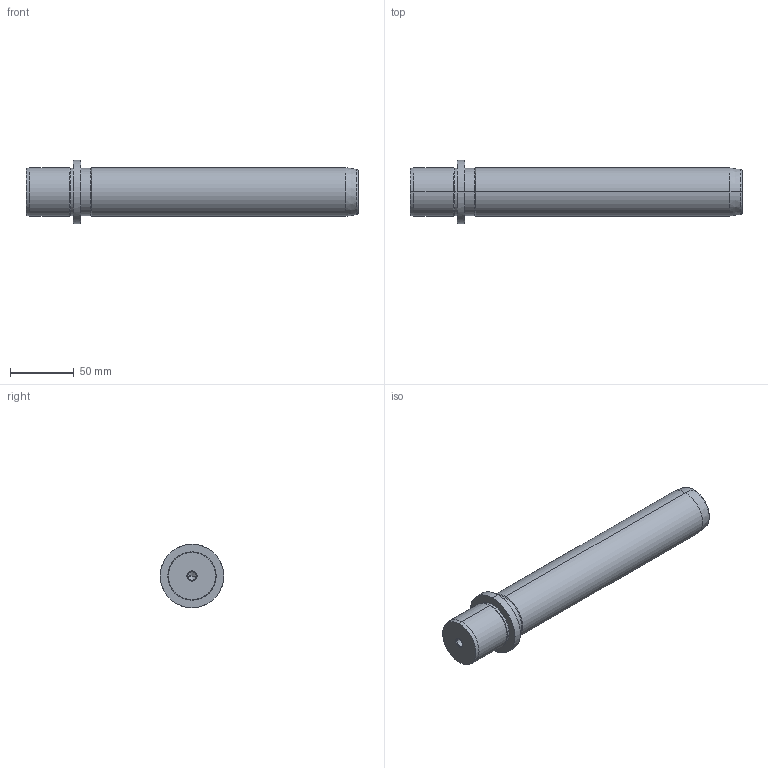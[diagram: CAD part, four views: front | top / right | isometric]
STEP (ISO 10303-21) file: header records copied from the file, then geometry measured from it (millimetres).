
FILE_DESCRIPTION(('CATIA V5 STEP Exchange'),'2;1');
FILE_NAME('C:\Users\Utente\Desktop\IO LAVORO\3D X SITO CF\X SITO\719\719-38x224.stp','2021-01-03T15:37:31+00:00',('none'),('none'),'CATIA Version 5 Release 20 GA (IN-10)','CATIA V5 STEP AP203','none');
FILE_SCHEMA(('CONFIG_CONTROL_DESIGN'));
Length unit declared in the file: millimetre
Products named in the file (1): 719-38x224
Bounding box: 261 x 50 x 50 mm (x, y, z)
Volume: 297799.4 mm3; surface area: 36166 mm2
Topology: 1 solids, 1 shells, 36 faces, 100 edges, 66 vertices
Faces by surface type: cone 16, cylinder 14, plane 4, torus 2
Entity records: 1267 total; most frequent: CARTESIAN_POINT 334, ORIENTED_EDGE 192, DIRECTION 159, EDGE_CURVE 96, AXIS2_PLACEMENT_3D 94, VERTEX_POINT 66, CIRCLE 57, EDGE_LOOP 40
